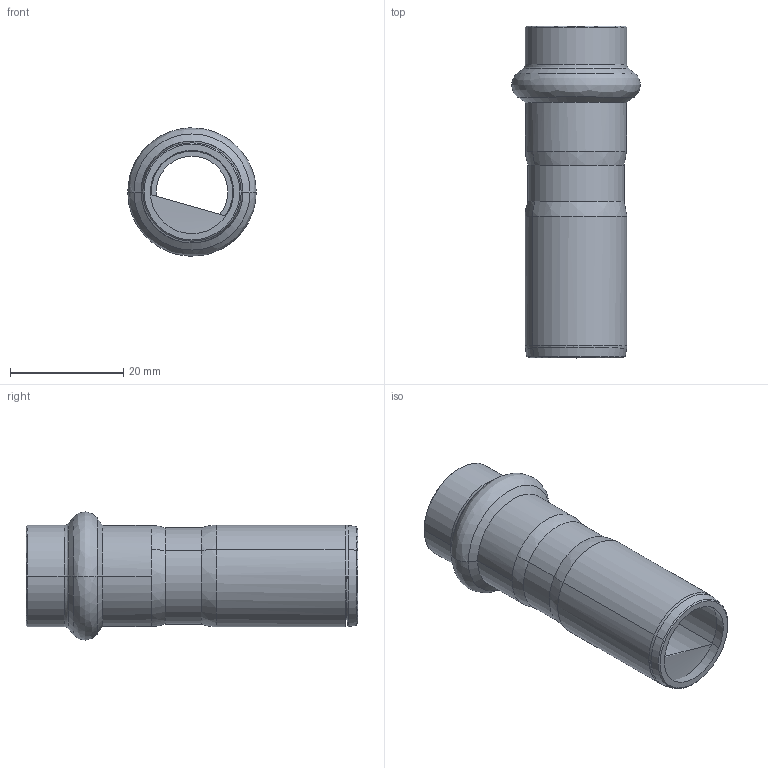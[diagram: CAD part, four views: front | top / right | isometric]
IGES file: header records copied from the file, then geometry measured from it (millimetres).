
Start section: Elysium IGES Interface
Global section: file name: C:\3d modellen sudo\C-Pr VP\SP8243V\8243VW1815.igs; native system: CoCreate Modeling 17.00A  17-Jun-2010; preprocessor: CoCreate IGES_3D V2.2; author: Unknown; organization: Unknown; date: 20130305.092121; units: millimetre
Bounding box: 22.68 x 58.61 x 22.67 mm (x, y, z)
Volume: 4669 mm3; surface area: 6493.7 mm2
Topology: 1 solids, 1 shells, 58 faces, 126 edges, 70 vertices
Faces by surface type: bspline 58
